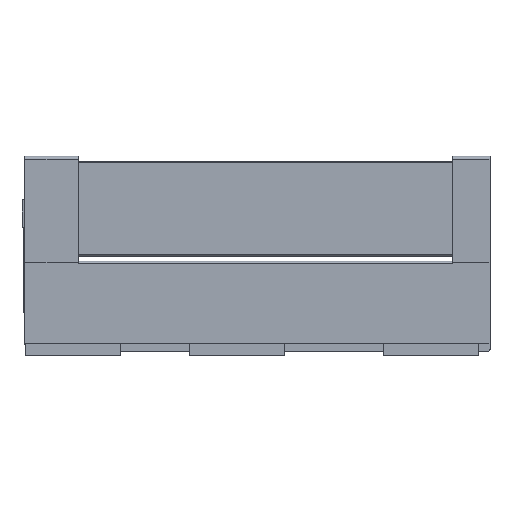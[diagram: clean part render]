
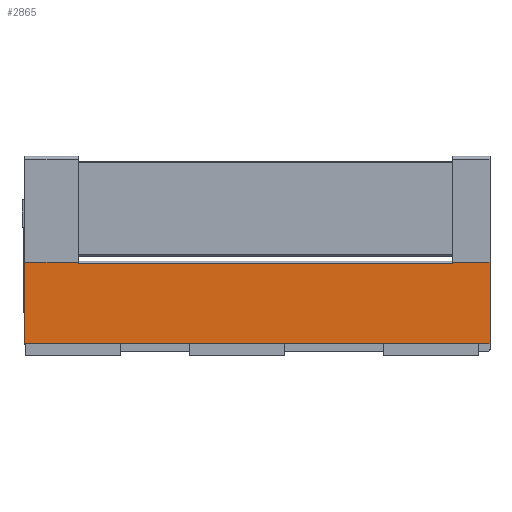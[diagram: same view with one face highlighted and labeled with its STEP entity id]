
A CAD part, left-side view. The second image highlights one B-rep face of the part: STEP entity #2865.
In plain terms, the highlighted planar face has unit normal (-1, 0, 0).
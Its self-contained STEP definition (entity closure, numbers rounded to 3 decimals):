
#75 = VECTOR ( 'NONE', #2564, 1000. ) ;
#76 = LINE ( 'NONE', #2563, #75 ) ;
#226 = VECTOR ( 'NONE', #3332, 1000. ) ;
#230 = LINE ( 'NONE', #3334, #226 ) ;
#248 = VECTOR ( 'NONE', #3358, 1000. ) ;
#251 = LINE ( 'NONE', #3360, #248 ) ;
#519 = FACE_OUTER_BOUND ( 'NONE', #1023, .T. ) ;
#958 = ORIENTED_EDGE ( 'NONE', *, *, #4562, .F. ) ;
#959 = ORIENTED_EDGE ( 'NONE', *, *, #4464, .F. ) ;
#960 = ORIENTED_EDGE ( 'NONE', *, *, #4726, .F. ) ;
#961 = ORIENTED_EDGE ( 'NONE', *, *, #4896, .T. ) ;
#962 = ORIENTED_EDGE ( 'NONE', *, *, #4983, .T. ) ;
#963 = ORIENTED_EDGE ( 'NONE', *, *, #4483, .F. ) ;
#964 = ORIENTED_EDGE ( 'NONE', *, *, #4780, .F. ) ;
#965 = ORIENTED_EDGE ( 'NONE', *, *, #4450, .F. ) ;
#1023 = EDGE_LOOP ( 'NONE', ( #958, #959, #960, #961, #962, #963, #964, #965 ) ) ;
#1276 = VECTOR ( 'NONE', #2390, 1000. ) ;
#1277 = LINE ( 'NONE', #2389, #1276 ) ;
#1350 = VECTOR ( 'NONE', #2305, 1000. ) ;
#1351 = LINE ( 'NONE', #2304, #1350 ) ;
#1418 = LINE ( 'NONE', #3279, #1466 ) ;
#1466 = VECTOR ( 'NONE', #3278, 1000. ) ;
#1591 = VECTOR ( 'NONE', #2043, 1000. ) ;
#1593 = LINE ( 'NONE', #2042, #1591 ) ;
#2042 = CARTESIAN_POINT ( 'NONE',  ( -4.1, 545., 47.266 ) ) ;
#2043 = DIRECTION ( 'NONE',  ( 0., -1., 0. ) ) ;
#2304 = CARTESIAN_POINT ( 'NONE',  ( -4.1, 440., 48.248 ) ) ;
#2305 = DIRECTION ( 'NONE',  ( 0., -1., 0. ) ) ;
#2389 = CARTESIAN_POINT ( 'NONE',  ( -4.1, 440., 48.248 ) ) ;
#2390 = DIRECTION ( 'NONE',  ( 0., -1., 0. ) ) ;
#2563 = CARTESIAN_POINT ( 'NONE',  ( -4.1, 440., 46.498 ) ) ;
#2564 = DIRECTION ( 'NONE',  ( 0., 0., -1. ) ) ;
#2670 = CARTESIAN_POINT ( 'NONE',  ( -4.1, 440., -28.503 ) ) ;
#2691 = DIRECTION ( 'NONE',  ( 0., -1., 0. ) ) ;
#2865 = ADVANCED_FACE ( 'NONE', ( #519 ), #3930, .F. ) ;
#3042 = VERTEX_POINT ( 'NONE', #3846 ) ;
#3278 = DIRECTION ( 'NONE',  ( 0., 0., -1. ) ) ;
#3279 = CARTESIAN_POINT ( 'NONE',  ( -4.1, 0., -28.503 ) ) ;
#3332 = DIRECTION ( 'NONE',  ( 0., 0., -1. ) ) ;
#3334 = CARTESIAN_POINT ( 'NONE',  ( -4.1, 389.3, -28.503 ) ) ;
#3358 = DIRECTION ( 'NONE',  ( 0., 0., 1. ) ) ;
#3360 = CARTESIAN_POINT ( 'NONE',  ( -4.1, 35.3, -28.503 ) ) ;
#3488 = CARTESIAN_POINT ( 'NONE',  ( -4.1, 440., -28.503 ) ) ;
#3528 = CARTESIAN_POINT ( 'NONE',  ( -4.1, 35.3, 47.266 ) ) ;
#3544 = CARTESIAN_POINT ( 'NONE',  ( -4.1, 35.3, 48.248 ) ) ;
#3547 = CARTESIAN_POINT ( 'NONE',  ( -4.1, 389.3, 47.266 ) ) ;
#3567 = CARTESIAN_POINT ( 'NONE',  ( -4.1, 0., 48.248 ) ) ;
#3570 = CARTESIAN_POINT ( 'NONE',  ( -4.1, 0., -28.503 ) ) ;
#3572 = CARTESIAN_POINT ( 'NONE',  ( -4.1, 389.3, 48.248 ) ) ;
#3846 = CARTESIAN_POINT ( 'NONE',  ( -4.1, 440., 48.248 ) ) ;
#3884 = DIRECTION ( 'NONE',  ( 0., 0., -1. ) ) ;
#3885 = DIRECTION ( 'NONE',  ( 1., 0., 0. ) ) ;
#3912 = CARTESIAN_POINT ( 'NONE',  ( -4.1, 440., -28.503 ) ) ;
#3930 = PLANE ( 'NONE',  #4700 ) ;
#4073 = VERTEX_POINT ( 'NONE', #3572 ) ;
#4077 = VERTEX_POINT ( 'NONE', #3570 ) ;
#4083 = VERTEX_POINT ( 'NONE', #3567 ) ;
#4124 = VERTEX_POINT ( 'NONE', #3547 ) ;
#4143 = VERTEX_POINT ( 'NONE', #3544 ) ;
#4173 = VERTEX_POINT ( 'NONE', #3528 ) ;
#4256 = VERTEX_POINT ( 'NONE', #3488 ) ;
#4450 = EDGE_CURVE ( 'NONE', #4173, #4143, #251, .T. ) ;
#4464 = EDGE_CURVE ( 'NONE', #4073, #4124, #230, .T. ) ;
#4483 = EDGE_CURVE ( 'NONE', #4083, #4077, #1418, .T. ) ;
#4562 = EDGE_CURVE ( 'NONE', #4124, #4173, #1593, .T. ) ;
#4700 = AXIS2_PLACEMENT_3D ( 'NONE', #3912, #3885, #3884 ) ;
#4726 = EDGE_CURVE ( 'NONE', #3042, #4073, #1351, .T. ) ;
#4780 = EDGE_CURVE ( 'NONE', #4143, #4083, #1277, .T. ) ;
#4896 = EDGE_CURVE ( 'NONE', #3042, #4256, #76, .T. ) ;
#4983 = EDGE_CURVE ( 'NONE', #4256, #4077, #5212, .T. ) ;
#5208 = VECTOR ( 'NONE', #2691, 1000. ) ;
#5212 = LINE ( 'NONE', #2670, #5208 ) ;
